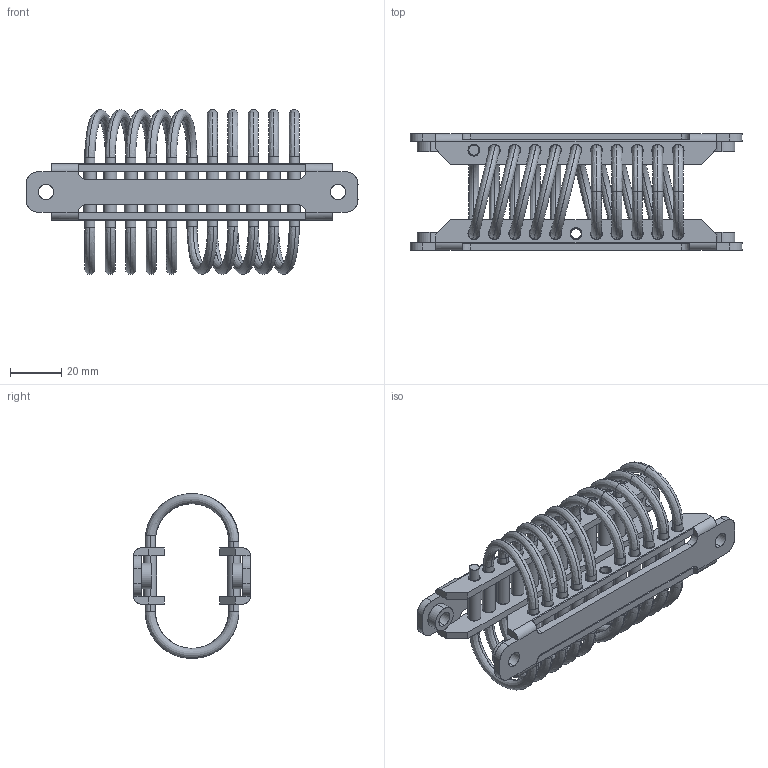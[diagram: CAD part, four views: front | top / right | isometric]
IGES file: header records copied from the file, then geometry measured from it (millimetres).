
Start section: SolidWorks IGES file using analytic representation for surfaces
Bounding box: 130 x 45.7 x 64.59 mm (x, y, z)
Surface area: 44383.8 mm2 (no closed solid volume)
Topology: 0 solids, 0 shells, 286 faces, 7764 edges, 7764 vertices
Faces by surface type: bspline 160, revolution 126
